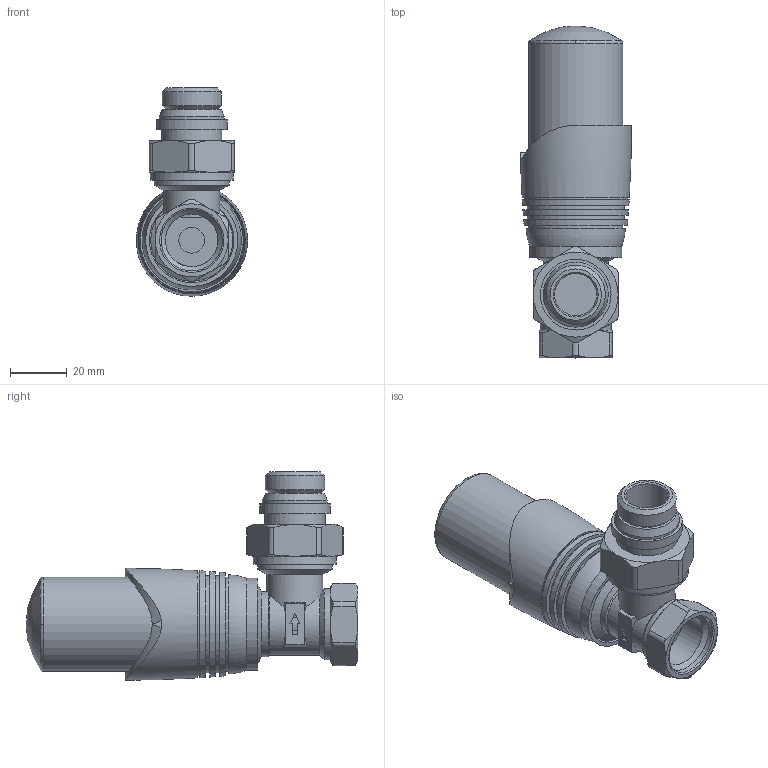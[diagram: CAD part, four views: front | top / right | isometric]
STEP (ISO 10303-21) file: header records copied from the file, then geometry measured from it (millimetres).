
FILE_DESCRIPTION(('STEP AP203'), '1');
FILE_NAME('VT.045.GR.04.1.2', '2026-02-18T07:38:09', ('VerevichevVA'), ('Vesta'), 'C3D Converter', 'C3D Toolkit', '');
FILE_SCHEMA(('CONFIG_CONTROL_DESIGN'));
Length unit declared in the file: millimetre
Bounding box: 39.3 x 117.4 x 73.66 mm (x, y, z)
Volume: 106450.6 mm3; surface area: 27221.8 mm2
Topology: 1 solids, 5 shells, 228 faces, 549 edges, 355 vertices
Faces by surface type: plane 109, cylinder 42, extrusion 40, cone 27, torus 8, bspline 1, sphere 1
Full cylindrical faces by diameter (mm): 9.1 x1, 14.9 x1, 18.632 x1, 19.8 x1, 20.955 x1, 21.3 x1, 21.7 x1, 21.9 x1, 23 x2, 25 x2, 26.441 x1, 29.4 x1, 32.6 x1, 33.4 x2, 34.3 x2, 36.8 x1
Entity records: 10465 total; most frequent: CARTESIAN_POINT 5566, ORIENTED_EDGE 1016, DIRECTION 848, EDGE_CURVE 508, VERTEX_POINT 354, EDGE_LOOP 292, AXIS2_PLACEMENT_3D 287, VECTOR 274
